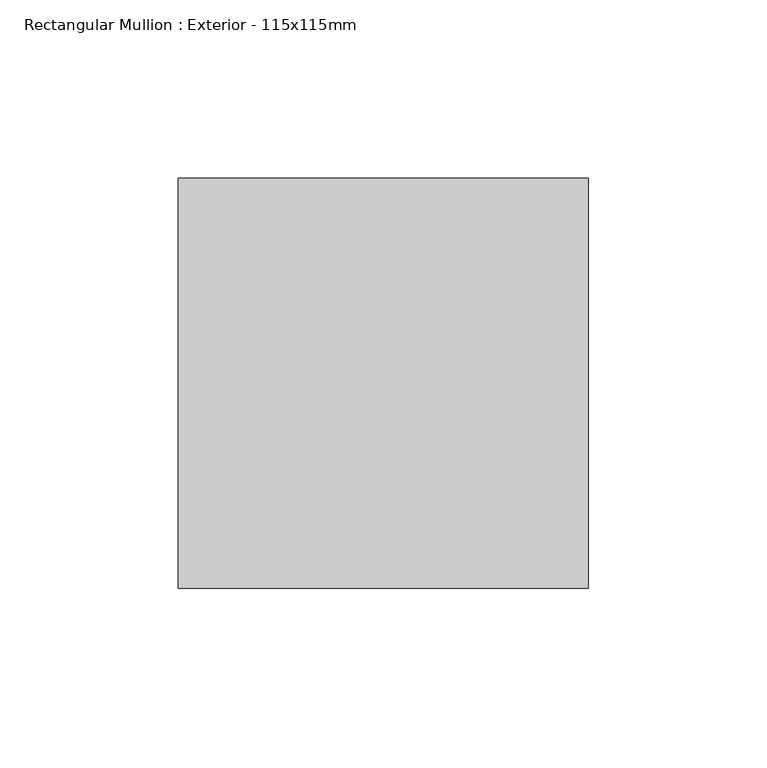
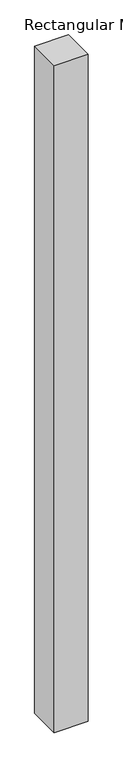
"""IFC4 building model written with IfcOpenShell, lengths in millimetres: member geometry, Rectangular Mullion : Exterior - 115x115mm."""

from ifc_helpers import new_model, si_unit, frame, origin, place, context, project, spatial, polyline, outline, extrude, source, transform, mapped, element, save


def rectangular_mullion_exterior_115x115mm_57de83c7(model_context):
    return source(origin(), model_context, "Body", "SweptSolid", [
        extrude(outline(polyline([(57.5, 115.0), (57.5, 0.0), (-57.5, 0.0), (-57.5, 115.0), (57.5, 115.0)])), frame((0.0, 0.0, -2400.0), z_axis=(0.0, 0.0, 1.0), x_axis=(1.0, 0.0, 0.0)), (0.0, 0.0, 1.0), 2400.0),
    ])


if __name__ == "__main__":
    model = new_model("IFC4")
    model_context = context("Model", 3, world=origin())
    ifc_project = project(units=[si_unit("LENGTHUNIT", "METRE", prefix="MILLI")], contexts=[model_context])
    site = spatial("IfcSite", under=ifc_project)
    building = spatial("IfcBuilding", under=site)
    placement = place(None, origin())
    rectangular_mullion_exterior_115x115mm_shape = rectangular_mullion_exterior_115x115mm_57de83c7(model_context)
    element("IfcMember", 1, ObjectType="Rectangular Mullion : Exterior - 115x115mm", at=placement, inside=building, context=model_context, shape_type="MappedRepresentation", body=[
        mapped(rectangular_mullion_exterior_115x115mm_shape, transform((0.0, 0.0, 0.0), x_axis=(1.0, 0.0, 0.0), y_axis=(0.0, 1.0, 0.0), z_axis=(0.0, 0.0, 1.0))),
    ])
    save(model, "model.ifc")
